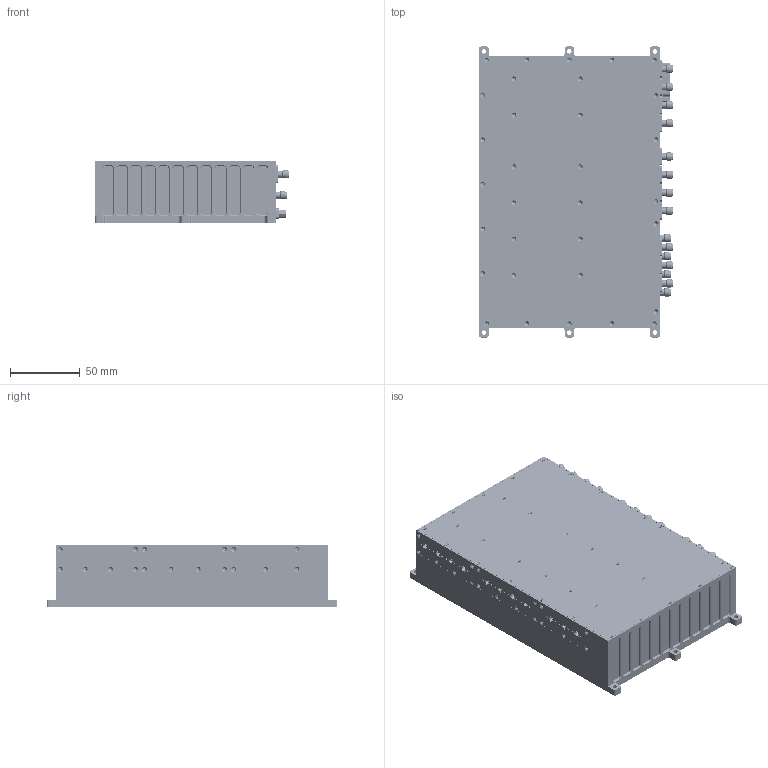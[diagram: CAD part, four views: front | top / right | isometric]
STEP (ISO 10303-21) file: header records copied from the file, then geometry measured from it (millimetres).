
FILE_DESCRIPTION (( 'STEP AP203' ), '1' );
FILE_NAME ('軞蚾V2.0.STEP', '2026-09-18T00:45:29', ( 'Windows User' ), ( 'P R C' ), 'SwSTEP 2.0', 'SolidWorks 2020', '' );
FILE_SCHEMA (( 'CONFIG_CONTROL_DESIGN' ));
Length unit declared in the file: millimetre
Products named in the file (53): ____________-1.STEP; ____________-3.STEP; ______-8.STEP; _____________1-2.STEP; J30J-25ZK(______.STEP; ____-10.STEP; _____________1-1.STEP; __________.STEP; ____________.STEP; _____________1-3.STEP; ____________-5.STEP; 軞蚾V2.0; ________________.STEP; SMP-JFD60G-F(____________________________________0.4______.STEP; SMP(M)-JYD67-L(____) -.STEP; __________________3__8__)____.STEP; SMA-4______8.6.STEP; ____-12.STEP; __________-9.STEP; 軞蚾V2.0.STEP; SMA-KFD454_1.STEP; ______2.STEP; SMP-JFD60G-F.STEP; SMP(M)-JYDI-L(____).STEP; ____________-2.STEP; _____________1-0.STEP; ____________-6.STEP; ____.STEP; _____________1.STEP; SMP(M)-JYDI-L(____)_1.STEP; __________________3__8________.STEP; 251638______.STEP; ____-11.STEP; ______.STEP; __________-4.STEP; ____________-4.STEP; ______-7.STEP
Assembly tree (192 placements, depth 5):
  軞蚾V2.0
    軞蚾V2.0.STEP
      ____________.STEP
        ____________-1.STEP
          _____________1.STEP
          251638______.STEP  x2
          SMP-JFD60G-F(____________________________________0.4______.STEP  x4
        ____________-1.STEP
          _____________1.STEP
          251638______.STEP  x2
          SMP-JFD60G-F(____________________________________0.4______.STEP  x4
        ______.STEP
      ____________.STEP
        ____________-1.STEP
          _____________1.STEP
          251638______.STEP  x2
          SMP-JFD60G-F(____________________________________0.4______.STEP  x4
        ____________-1.STEP
          _____________1.STEP
          251638______.STEP  x2
          SMP-JFD60G-F(____________________________________0.4______.STEP  x4
        ______.STEP
      ____________.STEP
        ____________-1.STEP
          _____________1.STEP
          251638______.STEP  x2
          SMP-JFD60G-F(____________________________________0.4______.STEP  x4
        ____________-1.STEP
          _____________1.STEP
          251638______.STEP  x2
          SMP-JFD60G-F(____________________________________0.4______.STEP  x4
        ______.STEP
      ____________.STEP
        ____________-1.STEP
          _____________1.STEP
          251638______.STEP  x2
          SMP-JFD60G-F(____________________________________0.4______.STEP  x4
        ____________-1.STEP
          _____________1.STEP
          251638______.STEP  x2
          SMP-JFD60G-F(____________________________________0.4______.STEP  x4
        ______.STEP
      ____________.STEP
        ____________-1.STEP
          _____________1.STEP
          251638______.STEP  x2
          SMP-JFD60G-F(____________________________________0.4______.STEP  x4
        ____________-1.STEP
          _____________1.STEP
          251638______.STEP  x2
          SMP-JFD60G-F(____________________________________0.4______.STEP  x4
        ______.STEP
      ____________-2.STEP
        ____________-1.STEP
          _____________1.STEP
          251638______.STEP  x2
          SMP-JFD60G-F(____________________________________0.4______.STEP  x4
        ____________-3.STEP
          _____________1.STEP
          251638______.STEP
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Bounding box: 139.7 x 209 x 45 mm (x, y, z)
Volume: 600050.7 mm3; surface area: 447461 mm2
Topology: 168 solids, 170 shells, 9167 faces, 22050 edges, 14053 vertices
Faces by surface type: cylinder 5044, plane 3050, cone 1073
Entity records: 129887 total; most frequent: DIRECTION 22384, CARTESIAN_POINT 21220, ORIENTED_EDGE 19358, EDGE_CURVE 9679, AXIS2_PLACEMENT_3D 8707, VERTEX_POINT 6265, EDGE_LOOP 5100, VECTOR 4970
